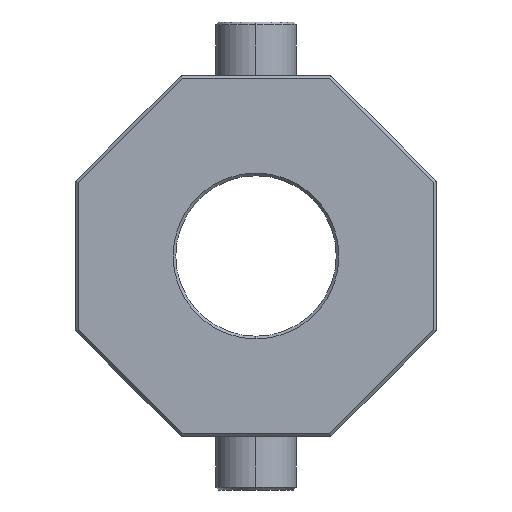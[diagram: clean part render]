
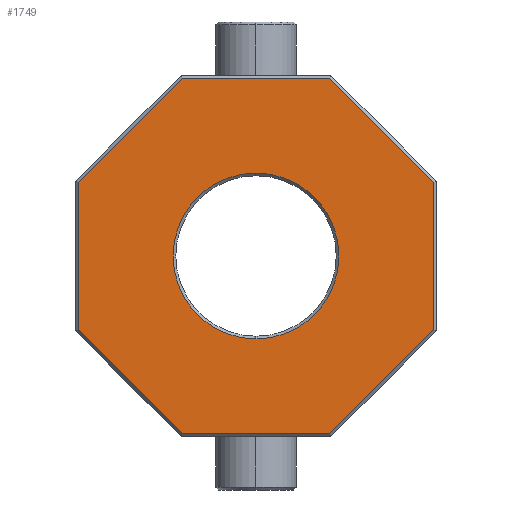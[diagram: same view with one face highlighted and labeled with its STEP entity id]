
A CAD part, left-side view. The second image highlights one B-rep face of the part: STEP entity #1749.
In plain terms, the highlighted planar face has unit normal (-1, 0, 0).
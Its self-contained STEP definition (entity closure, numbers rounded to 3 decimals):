
#10 = CARTESIAN_POINT ( 'NONE',  ( -20., -27.545, 66.5 ) ) ;
#13 = VERTEX_POINT ( 'NONE', #749 ) ;
#27 = DIRECTION ( 'NONE',  ( 0., 0., -1. ) ) ;
#29 = CARTESIAN_POINT ( 'NONE',  ( -20., -27.253, 66.793 ) ) ;
#45 = EDGE_CURVE ( 'NONE', #1172, #864, #478, .T. ) ;
#51 = CARTESIAN_POINT ( 'NONE',  ( -20., 66.5, -27.96 ) ) ;
#74 = CARTESIAN_POINT ( 'NONE',  ( -20., 27.96, 66.5 ) ) ;
#79 = DIRECTION ( 'NONE',  ( 0., -0.707, 0.707 ) ) ;
#113 = VECTOR ( 'NONE', #1474, 1000. ) ;
#121 = VERTEX_POINT ( 'NONE', #1300 ) ;
#152 = DIRECTION ( 'NONE',  ( 1., 0., 0. ) ) ;
#153 = VECTOR ( 'NONE', #692, 1000. ) ;
#157 = CARTESIAN_POINT ( 'NONE',  ( -20., 0., 31. ) ) ;
#192 = CARTESIAN_POINT ( 'NONE',  ( -20., 0., 0. ) ) ;
#223 = CARTESIAN_POINT ( 'NONE',  ( -20., -27.96, -66.5 ) ) ;
#224 = ORIENTED_EDGE ( 'NONE', *, *, #1819, .T. ) ;
#274 = VECTOR ( 'NONE', #79, 1000. ) ;
#275 = CARTESIAN_POINT ( 'NONE',  ( -20., 0., 0. ) ) ;
#284 = ORIENTED_EDGE ( 'NONE', *, *, #1052, .T. ) ;
#286 = LINE ( 'NONE', #1107, #762 ) ;
#321 = ORIENTED_EDGE ( 'NONE', *, *, #1867, .T. ) ;
#340 = VECTOR ( 'NONE', #535, 1000. ) ;
#341 = CARTESIAN_POINT ( 'NONE',  ( -20., -66.5, 27.96 ) ) ;
#345 = DIRECTION ( 'NONE',  ( 1., 0., 0. ) ) ;
#415 = VECTOR ( 'NONE', #714, 1000. ) ;
#457 = ORIENTED_EDGE ( 'NONE', *, *, #683, .T. ) ;
#478 = CIRCLE ( 'NONE', #1918, 31. ) ;
#480 = CARTESIAN_POINT ( 'NONE',  ( -20., 66.5, 27.545 ) ) ;
#500 = VERTEX_POINT ( 'NONE', #1731 ) ;
#524 = LINE ( 'NONE', #29, #550 ) ;
#535 = DIRECTION ( 'NONE',  ( 0., 0., 1. ) ) ;
#543 = VERTEX_POINT ( 'NONE', #480 ) ;
#550 = VECTOR ( 'NONE', #664, 1000. ) ;
#564 = ORIENTED_EDGE ( 'NONE', *, *, #1153, .T. ) ;
#664 = DIRECTION ( 'NONE',  ( 0., 0.707, 0.707 ) ) ;
#674 = LINE ( 'NONE', #980, #113 ) ;
#679 = DIRECTION ( 'NONE',  ( 0., 0., -1. ) ) ;
#683 = EDGE_CURVE ( 'NONE', #543, #1030, #1486, .T. ) ;
#692 = DIRECTION ( 'NONE',  ( 0., 0., -1. ) ) ;
#698 = VERTEX_POINT ( 'NONE', #1216 ) ;
#714 = DIRECTION ( 'NONE',  ( 0., 1., 0. ) ) ;
#749 = CARTESIAN_POINT ( 'NONE',  ( -20., -66.5, 27.545 ) ) ;
#762 = VECTOR ( 'NONE', #1772, 1000. ) ;
#781 = CARTESIAN_POINT ( 'NONE',  ( -20., 27.545, 66.5 ) ) ;
#864 = VERTEX_POINT ( 'NONE', #157 ) ;
#980 = CARTESIAN_POINT ( 'NONE',  ( -20., 27.253, -66.793 ) ) ;
#985 = PLANE ( 'NONE',  #1391 ) ;
#986 = ORIENTED_EDGE ( 'NONE', *, *, #1458, .T. ) ;
#999 = DIRECTION ( 'NONE',  ( 1., 0., 0. ) ) ;
#1004 = EDGE_LOOP ( 'NONE', ( #1473, #1226 ) ) ;
#1030 = VERTEX_POINT ( 'NONE', #1294 ) ;
#1052 = EDGE_CURVE ( 'NONE', #698, #13, #1313, .T. ) ;
#1059 = CIRCLE ( 'NONE', #1359, 31. ) ;
#1067 = LINE ( 'NONE', #1517, #274 ) ;
#1069 = ORIENTED_EDGE ( 'NONE', *, *, #1114, .T. ) ;
#1107 = CARTESIAN_POINT ( 'NONE',  ( -20., 66.793, 27.253 ) ) ;
#1114 = EDGE_CURVE ( 'NONE', #500, #121, #1348, .T. ) ;
#1153 = EDGE_CURVE ( 'NONE', #121, #698, #1067, .T. ) ;
#1172 = VERTEX_POINT ( 'NONE', #1358 ) ;
#1216 = CARTESIAN_POINT ( 'NONE',  ( -20., -66.5, -27.545 ) ) ;
#1226 = ORIENTED_EDGE ( 'NONE', *, *, #45, .T. ) ;
#1294 = CARTESIAN_POINT ( 'NONE',  ( -20., 66.5, -27.545 ) ) ;
#1298 = FACE_OUTER_BOUND ( 'NONE', #2007, .T. ) ;
#1300 = CARTESIAN_POINT ( 'NONE',  ( -20., -27.545, -66.5 ) ) ;
#1313 = LINE ( 'NONE', #341, #340 ) ;
#1332 = DIRECTION ( 'NONE',  ( 0., 0., -1. ) ) ;
#1335 = VERTEX_POINT ( 'NONE', #781 ) ;
#1348 = LINE ( 'NONE', #223, #1683 ) ;
#1358 = CARTESIAN_POINT ( 'NONE',  ( -20., 0., -31. ) ) ;
#1359 = AXIS2_PLACEMENT_3D ( 'NONE', #192, #999, #1332 ) ;
#1391 = AXIS2_PLACEMENT_3D ( 'NONE', #1619, #345, #679 ) ;
#1437 = EDGE_CURVE ( 'NONE', #1030, #500, #674, .T. ) ;
#1458 = EDGE_CURVE ( 'NONE', #13, #1667, #524, .T. ) ;
#1473 = ORIENTED_EDGE ( 'NONE', *, *, #1776, .T. ) ;
#1474 = DIRECTION ( 'NONE',  ( 0., -0.707, -0.707 ) ) ;
#1486 = LINE ( 'NONE', #51, #153 ) ;
#1513 = ORIENTED_EDGE ( 'NONE', *, *, #1437, .T. ) ;
#1517 = CARTESIAN_POINT ( 'NONE',  ( -20., -66.793, -27.253 ) ) ;
#1619 = CARTESIAN_POINT ( 'NONE',  ( -20., 0., 0. ) ) ;
#1643 = LINE ( 'NONE', #74, #415 ) ;
#1667 = VERTEX_POINT ( 'NONE', #10 ) ;
#1683 = VECTOR ( 'NONE', #1851, 1000. ) ;
#1731 = CARTESIAN_POINT ( 'NONE',  ( -20., 27.545, -66.5 ) ) ;
#1749 = ADVANCED_FACE ( 'NONE', ( #1298, #1929 ), #985, .F. ) ;
#1772 = DIRECTION ( 'NONE',  ( 0., 0.707, -0.707 ) ) ;
#1776 = EDGE_CURVE ( 'NONE', #864, #1172, #1059, .T. ) ;
#1819 = EDGE_CURVE ( 'NONE', #1667, #1335, #1643, .T. ) ;
#1851 = DIRECTION ( 'NONE',  ( 0., -1., 0. ) ) ;
#1867 = EDGE_CURVE ( 'NONE', #1335, #543, #286, .T. ) ;
#1918 = AXIS2_PLACEMENT_3D ( 'NONE', #275, #152, #27 ) ;
#1929 = FACE_BOUND ( 'NONE', #1004, .T. ) ;
#2007 = EDGE_LOOP ( 'NONE', ( #1069, #564, #284, #986, #224, #321, #457, #1513 ) ) ;
